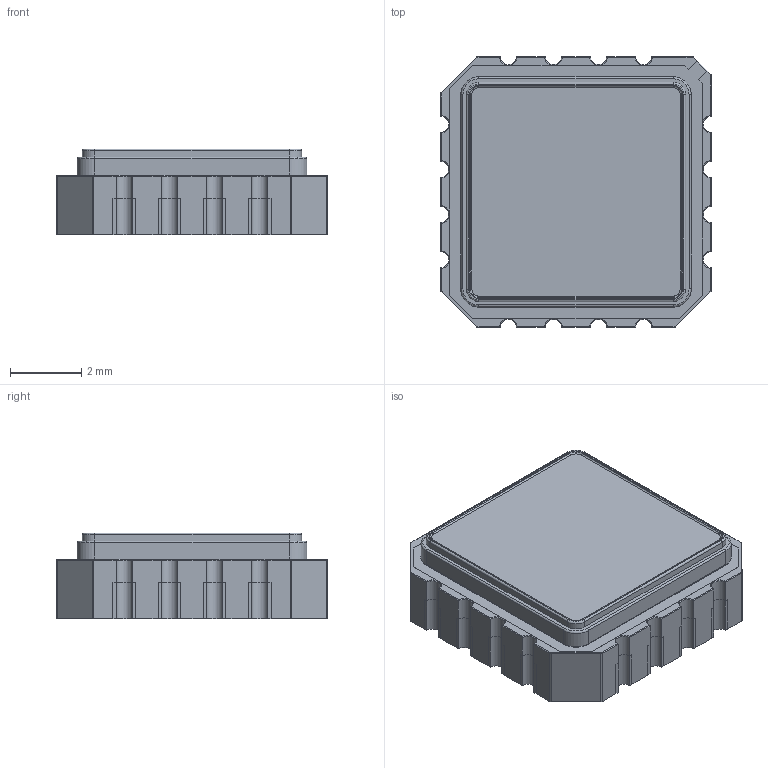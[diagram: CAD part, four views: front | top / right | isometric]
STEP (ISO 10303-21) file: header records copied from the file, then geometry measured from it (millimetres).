
FILE_DESCRIPTION(/* description */ ('STEP AP214'),/* implementation_level */ '2;1');
FILE_NAME(/* name */ '',/* time_stamp */ '2025-11-05T12:34:24+03:00',/* author */ (''),/* organization */ (''),/* preprocessor_version */ 'ST-DEVELOPER v20.1',/* originating_system */ 'Autodesk Translation Framework v14.17.0.0',/* authorisation */ '');
FILE_SCHEMA (('AUTOMOTIVE_DESIGN { 1 0 10303 214 3 1 1 }'));
Length unit declared in the file: millimetre
Products named in the file (4): User Library-5119.16-A; Êîðïóñ_5119.16-À; Ïèí äëèííûé_511
9.16-À; Ïèí êîðîòêèé
_5119.16-À
Assembly tree (17 placements, depth 2):
  User Library-5119.16-A
    Êîðïóñ_5119.16-À
    Ïèí êîðîòêèé
_5119.16-À  x15
    Ïèí äëèííûé_511
9.16-À
Bounding box: 7.62 x 7.62 x 2.42 mm (x, y, z)
Volume: 120.5 mm3; surface area: 314 mm2
Topology: 17 solids, 17 shells, 353 faces, 884 edges, 568 vertices
Faces by surface type: plane 257, cylinder 60, torus 20, cone 16
Entity records: 8008 total; most frequent: CARTESIAN_POINT 1759, ORIENTED_EDGE 1264, DIRECTION 1238, EDGE_CURVE 632, LINE 468, VECTOR 468, VERTEX_POINT 400, AXIS2_PLACEMENT_3D 385
